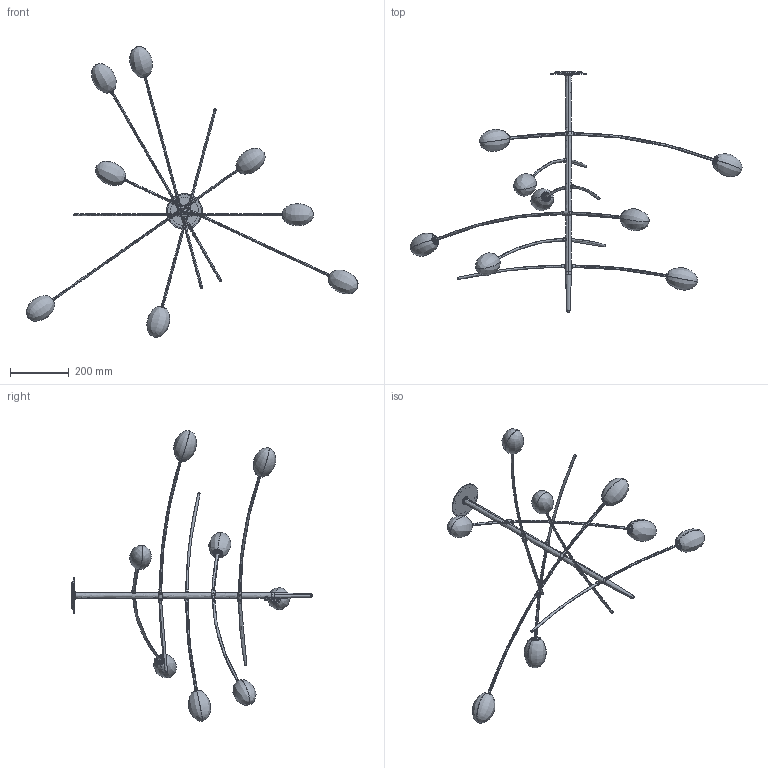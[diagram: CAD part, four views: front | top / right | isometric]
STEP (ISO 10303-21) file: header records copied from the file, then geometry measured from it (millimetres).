
FILE_DESCRIPTION(/* description */ (''),/* implementation_level */ '2;1');
FILE_NAME(/* name */ 'X112__~1',/* time_stamp */ '2024-07-03T17:28:11+02:00',/* author */ (''),/* organization */ (''),/* preprocessor_version */ 'ST-DEVELOPER v16.5',/* originating_system */ '',/* authorisation */ '');
FILE_SCHEMA (('AUTOMOTIVE_DESIGN'));
Length unit declared in the file: millimetre
Products named in the file (1): Document
Bounding box: 1129.34 x 818.2 x 988.52 mm (x, y, z)
Volume: 859508.9 mm3; surface area: 671435.7 mm2
Topology: 36 solids, 41 shells, 587 faces, 1421 edges, 894 vertices
Faces by surface type: bspline 485, plane 102
Entity records: 49669 total; most frequent: CARTESIAN_POINT 41587, ORIENTED_EDGE 2737, EDGE_CURVE 1379, VERTEX_POINT 894, EDGE_LOOP 684, ADVANCED_FACE 587, FACE_OUTER_BOUND 587, B_SPLINE_CURVE_WITH_KNOTS 570
